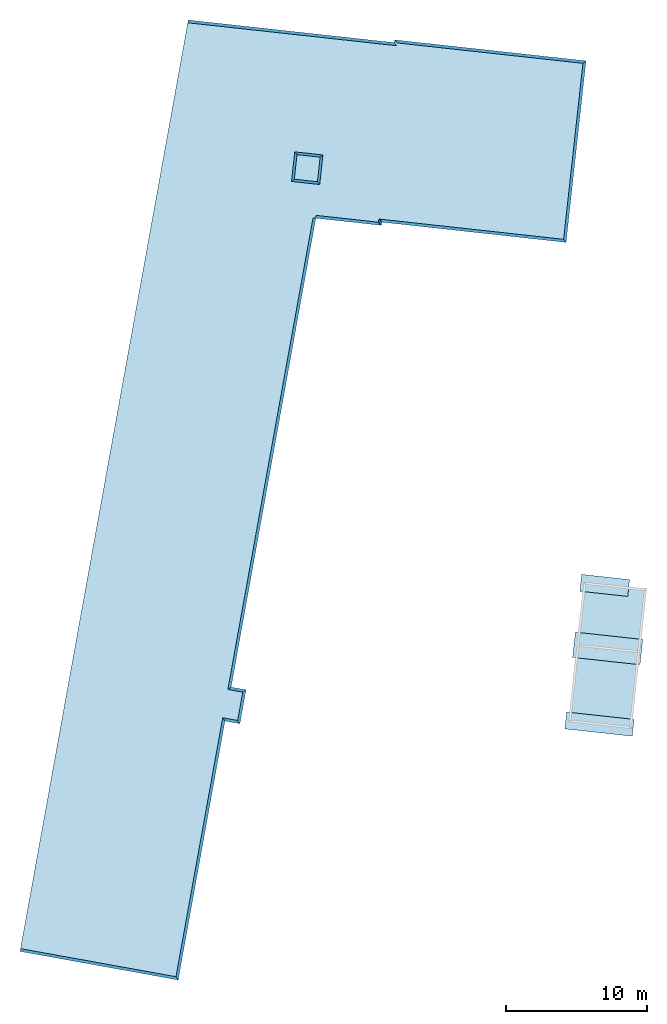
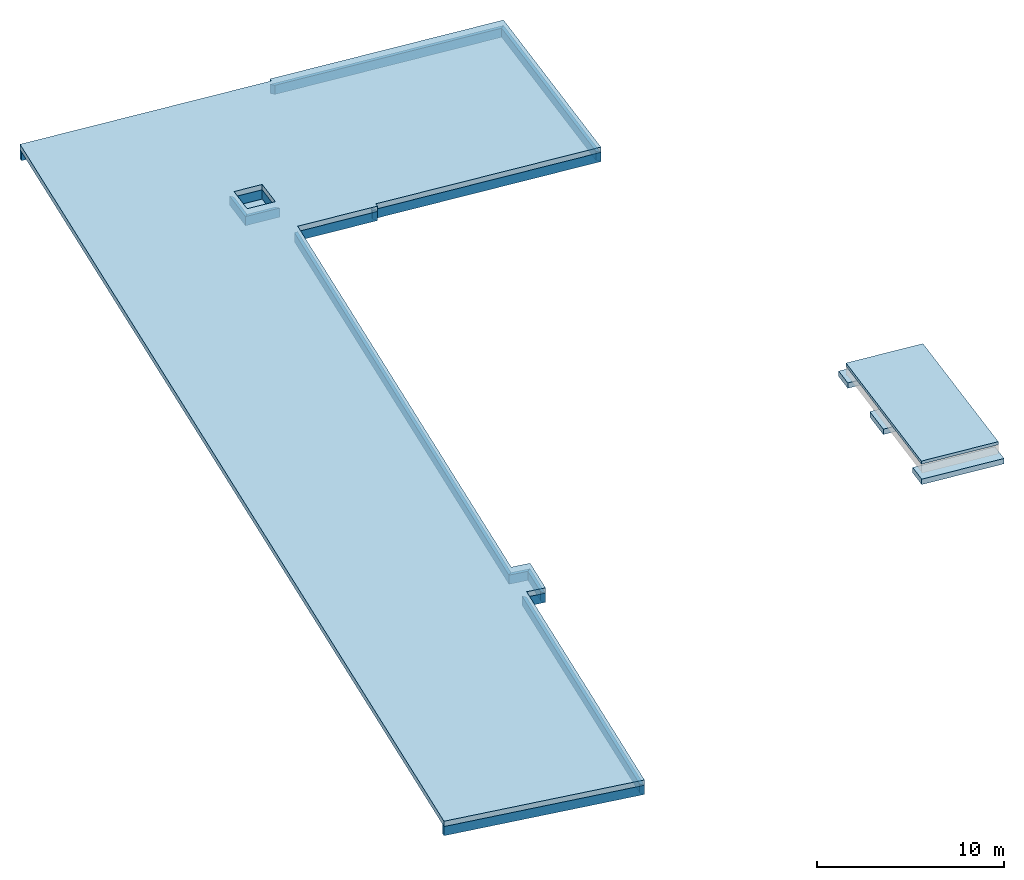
# One storey, part 1 of 2: 16 walls, 6 slabs.
"""IFC2X3 building model written with IfcOpenShell, lengths in metres."""

from ifc_helpers import new_model, entity, si_unit, converted_unit, derived_unit, money_unit, direction, frame, origin_with_axes, place, context, subcontext, project, spatial, polyline, outline, extrude, material, layer, layer_set, layer_usage, type_object, element, save


model = new_model("IFC2X3")

# Units and contexts
model_context = context("Model", 3, precision=1e-05, world=origin_with_axes(), true_north=direction((0.0, 1.0)))
body_context = subcontext(model_context, "Body", "Model", "MODEL_VIEW")
ifc_project = project(units=[si_unit("LENGTHUNIT", "METRE"), si_unit("AREAUNIT", "SQUARE_METRE"), si_unit("VOLUMEUNIT", "CUBIC_METRE"), converted_unit("PLANEANGLEUNIT", "DEGREE", entity("IfcPlaneAngleMeasure", 0.0174532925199), si_unit("PLANEANGLEUNIT", "RADIAN"), dimensions=[0, 0, 0, 0, 0, 0, 0]), money_unit("CHF"), converted_unit("TIMEUNIT", "Year", entity("IfcTimeMeasure", 31556926.0), si_unit("TIMEUNIT", "SECOND"), dimensions=[0, 0, 1, 0, 0, 0, 0]), si_unit("MASSUNIT", "GRAM", prefix="KILO"), si_unit("THERMODYNAMICTEMPERATUREUNIT", "DEGREE_CELSIUS"), si_unit("LUMINOUSINTENSITYUNIT", "LUMEN"), si_unit("ENERGYUNIT", "JOULE", prefix="MEGA"), derived_unit("THERMALCONDUCTANCEUNIT", [(si_unit("POWERUNIT", "WATT"), 1), (si_unit("LENGTHUNIT", "METRE"), -1), (si_unit("THERMODYNAMICTEMPERATUREUNIT", "KELVIN"), -1)]), derived_unit("SPECIFICHEATCAPACITYUNIT", [(si_unit("ENERGYUNIT", "JOULE"), 1), (si_unit("MASSUNIT", "GRAM", prefix="KILO"), -1), (si_unit("THERMODYNAMICTEMPERATUREUNIT", "KELVIN"), -1)]), derived_unit("MASSDENSITYUNIT", [(si_unit("MASSUNIT", "GRAM", prefix="KILO"), 1), (si_unit("VOLUMEUNIT", "CUBIC_METRE"), -1)])], contexts=[model_context])

# Site, building, storey
site_placement = place(None, frame((0.0, 0.0, 0.0), z_axis=(0.0, 0.0, 1.0), x_axis=(-0.177771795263, -0.984071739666, 0.0)))
site = spatial("IfcSite", under=ifc_project, at=site_placement, Name="Site", CompositionType="ELEMENT")
building_placement = place(site_placement, origin_with_axes())
building = spatial("IfcBuilding", under=site, at=building_placement, Name="Bâtiment", CompositionType="ELEMENT")
storey_placement = place(building_placement, frame((0.0, 0.0, -1.1), z_axis=(0.0, 0.0, 1.0), x_axis=(1.0, 0.0, 0.0)))
storey = spatial("IfcBuildingStorey", under=building, at=storey_placement, Name="Fondations", CompositionType="ELEMENT", Elevation=-1.1)

# Slabs
ifc_material_1 = material(Name="_BA banché RAL9007")
ifc_layer_1 = layer(ifc_material_1, 0.35, ventilated="UNKNOWN")
ifc_layer_set_1 = layer_set([ifc_layer_1], Name="_BA banché RAL9007 0.35")
ifc_layer_usage_1 = layer_usage(ifc_layer_set_1, "AXIS3", "NEGATIVE", 0.35)
slab_type_1 = type_object("IfcSlabType", Name="_BA banché RAL9007 350", PredefinedType="FLOOR")
slab_1_placement = place(storey_placement, frame((105.640690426, -148.419552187, 0.0), z_axis=(0.0, 0.0, 1.0), x_axis=(1.0, 0.0, 0.0)))
element("IfcSlab", 1, at=slab_1_placement, inside=storey, type_object=slab_type_1, material=ifc_layer_usage_1, Name="Radier-ascens", PredefinedType="FLOOR", context=body_context, shape_type="SweptSolid", body=[
    extrude(outline(polyline([(0.0, 0.0), (0.139218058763, -2.00517289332), (2.24415079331, -1.85902856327), (2.10493278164, 0.14614433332), (0.0, 0.0)])), frame((0.0, 0.0, -0.35), z_axis=(0.0, 0.0, 1.0), x_axis=(1.0, 0.0, 0.0)), (0.0, 0.0, 1.0), 0.35),
])
ifc_layer_usage_2 = layer_usage(ifc_layer_set_1, "AXIS3", "NEGATIVE", 0.35)
slab_2_placement = place(storey_placement, frame((108.676892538, -130.351310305, 0.95), z_axis=(0.0, 0.0, 1.0), x_axis=(1.0, 0.0, 0.0)))
element("IfcSlab", 2, at=slab_2_placement, inside=storey, type_object=slab_type_1, material=ifc_layer_usage_2, Name="Radier-general", PredefinedType="FLOOR", context=body_context, shape_type="SweptSolid", body=[
    extrude(outline(polyline([(0.0, 0.0), (-12.918915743, -0.896970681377), (-11.9728035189, -14.5236640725), (-11.7732826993, -14.5098278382), (-10.7557070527, -29.1657967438), (56.3529485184, -29.1657967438), (56.3529485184, -17.7658397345), (37.6951948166, -17.7658400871), (37.6951948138, -16.6912340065), (35.2551948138, -16.6912340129), (35.2551948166, -17.7658404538), (1.46345690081, -17.7658410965), (1.14033845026, -13.1120210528), (0.911481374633, -13.1279107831), (0.0, 0.0)]), holes=[polyline([(-2.72988362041, -19.881379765), (-2.84416710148, -18.2353423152), (-1.09836976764, -18.1141325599), (-0.984086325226, -19.7601700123), (-2.72988362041, -19.881379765)])]), frame((0.0, 0.0, -0.35), z_axis=(0.0, 0.0, 1.0), x_axis=(1.0, 0.0, 0.0)), (0.0, 0.0, 1.0), 0.35),
])
ifc_material_2 = material(Name="_BA banché")
ifc_layer_2 = layer(ifc_material_2, 0.35, ventilated="UNKNOWN")
ifc_layer_set_2 = layer_set([ifc_layer_2], Name="_BA banché 0.35")
ifc_layer_usage_3 = layer_usage(ifc_layer_set_2, "AXIS3", "NEGATIVE", 0.35)
slab_type_2 = type_object("IfcSlabType", Name="_BA banché 350", PredefinedType="FLOOR")
slab_3_placement = place(storey_placement, frame((137.211990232, -119.867738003, 0.2), z_axis=(0.0, 0.0, 1.0), x_axis=(1.0, 0.0, 0.0)))
element("IfcSlab", 3, at=slab_3_placement, inside=storey, type_object=slab_type_2, material=ifc_layer_usage_3, Name="Semelle_BlocSanit", PredefinedType="FLOOR", context=body_context, shape_type="SweptSolid", body=[
    extrude(outline(polyline([(0.0, 0.0), (-1.79557843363, -0.126087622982), (-1.45864433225, -4.92427155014), (0.336934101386, -4.79818392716), (0.0, 0.0)])), frame((0.0, 0.0, -0.35), z_axis=(0.0, 0.0, 1.0), x_axis=(1.0, 0.0, 0.0)), (0.0, 0.0, 1.0), 0.35),
])
ifc_layer_usage_4 = layer_usage(ifc_layer_set_2, "AXIS3", "NEGATIVE", 0.35)
slab_4_placement = place(storey_placement, frame((132.601302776, -121.589938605, 0.2), z_axis=(0.0, 0.0, 1.0), x_axis=(1.0, 0.0, 0.0)))
element("IfcSlab", 4, at=slab_4_placement, inside=storey, type_object=slab_type_2, material=ifc_layer_usage_4, Name="Semelle_BlocSanit", PredefinedType="FLOOR", context=body_context, shape_type="SweptSolid", body=[
    extrude(outline(polyline([(0.0, 0.0), (-1.19705228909, -0.0840584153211), (-0.957835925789, -3.49067147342), (0.2392163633, -3.4066130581), (0.0, 0.0)])), frame((0.0, 0.0, -0.35), z_axis=(0.0, 0.0, 1.0), x_axis=(1.0, 0.0, 0.0)), (0.0, 0.0, 1.0), 0.35),
])
ifc_layer_usage_5 = layer_usage(ifc_layer_set_2, "AXIS3", "NEGATIVE", 0.35)
slab_5_placement = place(storey_placement, frame((142.299462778, -119.51048953, 0.2), z_axis=(0.0, 0.0, 1.0), x_axis=(1.0, 0.0, 0.0)))
element("IfcSlab", 5, at=slab_5_placement, inside=storey, type_object=slab_type_2, material=ifc_layer_usage_5, Name="Semelle_BlocSanit", PredefinedType="FLOOR", context=body_context, shape_type="SweptSolid", body=[
    extrude(outline(polyline([(0.0, 0.0), (-1.19705228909, -0.0840584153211), (-0.860118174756, -4.88224252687), (0.336934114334, -4.79818411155), (0.0, 0.0)])), frame((0.0, 0.0, -0.35), z_axis=(0.0, 0.0, 1.0), x_axis=(1.0, 0.0, 0.0)), (0.0, 0.0, 1.0), 0.35),
])
ifc_layer_3 = layer(ifc_material_2, 0.2, ventilated="UNKNOWN")
ifc_layer_set_3 = layer_set([ifc_layer_3], Name="_BA banché 0.2")
ifc_layer_usage_6 = layer_usage(ifc_layer_set_3, "AXIS3", "NEGATIVE", 0.2)
slab_type_3 = type_object("IfcSlabType", Name="_BA banché 200", PredefinedType="FLOOR")
slab_6_placement = place(storey_placement, frame((132.138204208, -124.845376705, 1.0), z_axis=(0.0, 0.0, 1.0), x_axis=(1.0, 0.0, 0.0)))
element("IfcSlab", 6, at=slab_6_placement, inside=storey, type_object=slab_type_3, material=ifc_layer_usage_6, Name="Dalle_BlocSanit", PredefinedType="FLOOR", context=body_context, shape_type="SweptSolid", body=[
    extrude(outline(polyline([(0.0, 0.0), (9.97543571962, 0.700487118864), (9.66021651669, 5.18943318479), (-0.315219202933, 4.48894606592), (0.0, 0.0)])), frame((0.0, 0.0, -0.2), z_axis=(0.0, 0.0, 1.0), x_axis=(1.0, 0.0, 0.0)), (0.0, 0.0, 1.0), 0.2),
])

# Walls
ifc_layer_4 = layer(ifc_material_1, 0.2, ventilated="UNKNOWN")
ifc_layer_set_4 = layer_set([ifc_layer_4], Name="_BA banché RAL9007 0.2")
ifc_layer_usage_7 = layer_usage(ifc_layer_set_4, "AXIS2", "POSITIVE", 0.0)
wall_type_1 = type_object("IfcWallType", Name="_BA banché RAL9007 200", PredefinedType="NOTDEFINED")
wall_1_placement = place(storey_placement, frame((109.588373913, -143.479221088, 0.0), z_axis=(0.0, 0.0, 1.0), x_axis=(-0.0692640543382, 0.997598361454, 0.0)))
element("IfcWallStandardCase", 7, at=wall_1_placement, inside=storey, type_object=wall_type_1, material=ifc_layer_usage_7, Name="beche-hors-gel", context=body_context, shape_type="SweptSolid", body=[
    extrude(outline(polyline([(-2.66652477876e-10, 0.0), (13.1595151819, 0.0), (12.959515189, 0.2), (-0.200000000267, 0.2), (-2.66652477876e-10, 0.0)])), origin_with_axes(), (0.0, 0.0, 1.0), 0.6),
])
ifc_layer_usage_8 = layer_usage(ifc_layer_set_4, "AXIS2", "POSITIVE", 0.0)
wall_2_placement = place(storey_placement, frame((95.7579767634, -131.248280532, 0.0), z_axis=(0.0, 0.0, 1.0), x_axis=(0.0692640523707, -0.997598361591, 0.0)))
element("IfcWallStandardCase", 8, at=wall_2_placement, inside=storey, type_object=wall_type_1, material=ifc_layer_usage_8, Name="beche-hors-gel", context=body_context, shape_type="SweptSolid", body=[
    extrude(outline(polyline([(2.93596258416e-10, 0.0), (13.6594990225, 0.0), (13.4595156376, 0.2), (0.200000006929, 0.2), (2.93596258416e-10, 0.0)])), origin_with_axes(), (0.0, 0.0, 1.0), 0.6),
])
ifc_layer_usage_9 = layer_usage(ifc_layer_set_4, "AXIS2", "POSITIVE", 0.0)
wall_3_placement = place(storey_placement, frame((146.372087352, -147.042544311, 0.0), z_axis=(0.0, 0.0, 1.0), x_axis=(-1.0, -2.93129163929e-09, 0.0)))
element("IfcWallStandardCase", 9, at=wall_3_placement, inside=storey, type_object=wall_type_1, material=ifc_layer_usage_9, Name="beche-hors-gel", context=body_context, shape_type="SweptSolid", body=[
    extrude(outline(polyline([(-1.80534698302e-10, 0.0), (2.44, 0.0), (2.24000000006, 0.2), (0.199999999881, 0.2), (-1.80534698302e-10, 0.0)])), origin_with_axes(), (0.0, 0.0, 1.0), 0.6),
])
ifc_layer_usage_10 = layer_usage(ifc_layer_set_4, "AXIS2", "POSITIVE", 0.0)
wall_4_placement = place(storey_placement, frame((110.140351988, -148.117188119, 0.0), z_axis=(0.0, 0.0, 1.0), x_axis=(-0.0692640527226, 0.997598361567, 0.0)))
element("IfcWallStandardCase", 10, at=wall_4_placement, inside=storey, type_object=wall_type_1, material=ifc_layer_usage_10, Name="beche-hors-gel", context=body_context, shape_type="SweptSolid", body=[
    extrude(outline(polyline([(0.0, 0.0), (4.66506054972, 0.0), (4.4650605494, 0.2), (0.0, 0.2), (0.0, 0.0)])), origin_with_axes(), (0.0, 0.0, 1.0), 0.6),
])
ifc_layer_usage_11 = layer_usage(ifc_layer_set_4, "AXIS2", "POSITIVE", 0.0)
wall_5_placement = place(storey_placement, frame((109.817230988, -143.463331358, 0.0), z_axis=(0.0, 0.0, 1.0), x_axis=(-0.997598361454, -0.0692640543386, 0.0)))
element("IfcWallStandardCase", 11, at=wall_5_placement, inside=storey, type_object=wall_type_1, material=ifc_layer_usage_11, Name="beche-hors-gel", context=body_context, shape_type="SweptSolid", body=[
    extrude(outline(polyline([(-1.30569333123e-10, 0.0), (0.229408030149, 0.0), (0.429408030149, 0.2), (0.200000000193, 0.2), (-1.30569333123e-10, 0.0)])), origin_with_axes(), (0.0, 0.0, 1.0), 0.6),
])
ifc_layer_usage_12 = layer_usage(ifc_layer_set_4, "AXIS2", "POSITIVE", 0.0)
wall_6_placement = place(storey_placement, frame((143.932087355, -148.117150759, 0.0), z_axis=(0.0, 0.0, 1.0), x_axis=(-1.0, -1.90173511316e-08, 0.0)))
element("IfcWallStandardCase", 12, at=wall_6_placement, inside=storey, type_object=wall_type_1, material=ifc_layer_usage_12, Name="beche-hors-gel", context=body_context, shape_type="SweptSolid", body=[
    extrude(outline(polyline([(1.80449433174e-10, 0.0), (33.7917379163, 0.0), (33.7778517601, 0.2), (-0.199999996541, 0.2), (1.80449433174e-10, 0.0)])), origin_with_axes(), (0.0, 0.0, 1.0), 0.6),
])
ifc_layer_usage_13 = layer_usage(ifc_layer_set_4, "AXIS2", "POSITIVE", 0.0)
wall_7_placement = place(storey_placement, frame((143.932087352, -147.042544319, 0.0), z_axis=(0.0, 0.0, 1.0), x_axis=(2.62376879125e-09, -1.0, 0.0)))
element("IfcWallStandardCase", 13, at=wall_7_placement, inside=storey, type_object=wall_type_1, material=ifc_layer_usage_13, Name="beche-hors-gel", context=body_context, shape_type="SweptSolid", body=[
    extrude(outline(polyline([(-8.47649062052e-10, 0.0), (1.07460644, 0.0), (1.27460643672, 0.2), (0.199999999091, 0.2), (-8.47649062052e-10, 0.0)])), origin_with_axes(), (0.0, 0.0, 1.0), 0.6),
])
ifc_layer_usage_14 = layer_usage(ifc_layer_set_4, "AXIS2", "POSITIVE", 0.0)
wall_8_placement = place(storey_placement, frame((96.9036098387, -144.861138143, 0.0), z_axis=(0.0, 0.0, 1.0), x_axis=(0.0692640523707, -0.997598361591, 0.0)))
element("IfcWallStandardCase", 14, at=wall_8_placement, inside=storey, type_object=wall_type_1, material=ifc_layer_usage_14, Name="beche-hors-gel", context=body_context, shape_type="SweptSolid", body=[
    extrude(outline(polyline([(-3.21307425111e-10, 0.0), (14.6912519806, 0.0), (14.6912519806, 0.2), (-0.199983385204, 0.2), (-3.21307425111e-10, 0.0)])), origin_with_axes(), (0.0, 0.0, 1.0), 0.6),
])
ifc_layer_usage_15 = layer_usage(ifc_layer_set_4, "AXIS2", "POSITIVE", 0.0)
wall_9_placement = place(storey_placement, frame((165.029841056, -159.517107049, 0.0), z_axis=(0.0, 0.0, 1.0), x_axis=(0.0, 1.0, 0.0)))
element("IfcWallStandardCase", 15, at=wall_9_placement, inside=storey, type_object=wall_type_1, material=ifc_layer_usage_15, Name="beche-hors-gel", context=body_context, shape_type="SweptSolid", body=[
    extrude(outline(polyline([(0.0, 0.0), (11.399956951, 0.0), (11.1999569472, 0.2), (0.0, 0.2), (0.0, 0.0)])), origin_with_axes(), (0.0, 0.0, 1.0), 0.6),
])
ifc_layer_usage_16 = layer_usage(ifc_layer_set_4, "AXIS2", "POSITIVE", 0.0)
wall_10_placement = place(storey_placement, frame((165.029841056, -148.117150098, 0.0), z_axis=(0.0, 0.0, 1.0), x_axis=(-1.0, -1.88991751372e-08, 0.0)))
element("IfcWallStandardCase", 16, at=wall_10_placement, inside=storey, type_object=wall_type_1, material=ifc_layer_usage_16, Name="beche-hors-gel", context=body_context, shape_type="SweptSolid", body=[
    extrude(outline(polyline([(0.0, 0.0), (18.657753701, 0.0), (18.8577537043, 0.2), (0.20000000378, 0.2), (0.0, 0.0)])), origin_with_axes(), (0.0, 0.0, 1.0), 0.6),
])
ifc_layer_usage_17 = layer_usage(ifc_layer_set_4, "AXIS2", "POSITIVE", 0.0)
wall_11_placement = place(storey_placement, frame((146.372087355, -148.117150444, 0.0), z_axis=(0.0, 0.0, 1.0), x_axis=(-2.623716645e-09, 1.0, 0.0)))
element("IfcWallStandardCase", 17, at=wall_11_placement, inside=storey, type_object=wall_type_1, material=ifc_layer_usage_17, Name="beche-hors-gel", context=body_context, shape_type="SweptSolid", body=[
    extrude(outline(polyline([(-6.61620447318e-09, 0.0), (1.074606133, 0.0), (0.874606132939, 0.2), (-0.200000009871, 0.2), (-6.61620447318e-09, 0.0)])), origin_with_axes(), (0.0, 0.0, 1.0), 0.6),
])
ifc_layer_usage_18 = layer_usage(ifc_layer_set_4, "AXIS2", "POSITIVE", 0.0)
wall_12_placement = place(storey_placement, frame((108.676892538, -130.351310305, 0.0), z_axis=(0.0, 0.0, 1.0), x_axis=(-0.997598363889, -0.0692640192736, 0.0)))
element("IfcWallStandardCase", 18, at=wall_12_placement, inside=storey, type_object=wall_type_1, material=ifc_layer_usage_18, Name="beche-hors-gel", context=body_context, shape_type="SweptSolid", body=[
    extrude(outline(polyline([(-3.75081299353e-10, 0.0), (12.9500170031, 0.0), (12.7500169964, 0.2), (0.199999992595, 0.2), (-3.75081299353e-10, 0.0)])), origin_with_axes(), (0.0, 0.0, 1.0), 0.6),
])
ifc_layer_5 = layer(ifc_material_1, 0.18, ventilated="UNKNOWN")
ifc_layer_set_5 = layer_set([ifc_layer_5], Name="_BA banché RAL9007 0.18")
ifc_layer_usage_19 = layer_usage(ifc_layer_set_5, "AXIS2", "POSITIVE", -0.18)
wall_type_2 = type_object("IfcWallType", Name="_BA banché RAL9007 180", PredefinedType="NOTDEFINED")
wall_13_placement = place(storey_placement, frame((107.692806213, -150.111480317, 0.0), z_axis=(0.0, 0.0, 1.0), x_axis=(-0.0692626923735, 0.997598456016, 0.0)))
element("IfcWallStandardCase", 19, at=wall_13_placement, inside=storey, type_object=wall_type_2, material=ifc_layer_usage_19, Name="refend-ascens", context=body_context, shape_type="SweptSolid", body=[
    extrude(outline(polyline([(-0.17999999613, -0.18), (1.83000000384, -0.18), (1.64999999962, 0.0), (-3.57516682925e-10, 0.0), (-0.17999999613, -0.18)])), origin_with_axes(), (0.0, 0.0, 1.0), 0.6),
])
ifc_layer_usage_20 = layer_usage(ifc_layer_set_5, "AXIS2", "POSITIVE", -0.18)
wall_14_placement = place(storey_placement, frame((107.57852277, -148.465442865, 0.0), z_axis=(0.0, 0.0, 1.0), x_axis=(-0.997598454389, -0.0692627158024, 0.0)))
element("IfcWallStandardCase", 20, at=wall_14_placement, inside=storey, type_object=wall_type_2, material=ifc_layer_usage_20, Name="refend-ascens", context=body_context, shape_type="SweptSolid", body=[
    extrude(outline(polyline([(-0.180000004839, -0.18), (1.93000003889, -0.18), (1.75000003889, 0.0), (-6.11862560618e-10, 0.0), (-0.180000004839, -0.18)])), origin_with_axes(), (0.0, 0.0, 1.0), 0.6),
])
ifc_layer_usage_21 = layer_usage(ifc_layer_set_5, "AXIS2", "POSITIVE", -0.18)
wall_15_placement = place(storey_placement, frame((105.832725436, -148.58665262, 0.0), z_axis=(0.0, 0.0, 1.0), x_axis=(0.0692627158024, -0.997598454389, 0.0)))
element("IfcWallStandardCase", 21, at=wall_15_placement, inside=storey, type_object=wall_type_2, material=ifc_layer_usage_21, Name="refend-ascens", context=body_context, shape_type="SweptSolid", body=[
    extrude(outline(polyline([(-0.179999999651, -0.18), (1.83000000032, -0.18), (1.65000000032, 0.0), (3.48592266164e-10, 0.0), (-0.179999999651, -0.18)])), origin_with_axes(), (0.0, 0.0, 1.0), 0.6),
])
ifc_layer_usage_22 = layer_usage(ifc_layer_set_5, "AXIS2", "POSITIVE", -0.18)
wall_16_placement = place(storey_placement, frame((105.947008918, -150.23269007, 0.0), z_axis=(0.0, 0.0, 1.0), x_axis=(0.997598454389, 0.0692627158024, 0.0)))
element("IfcWallStandardCase", 22, at=wall_16_placement, inside=storey, type_object=wall_type_2, material=ifc_layer_usage_22, Name="refend-ascens", context=body_context, shape_type="SweptSolid", body=[
    extrude(outline(polyline([(-0.180000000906, -0.18), (1.92999999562, -0.18), (1.74999999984, 0.0), (-9.05970409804e-10, 0.0), (-0.180000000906, -0.18)])), origin_with_axes(), (0.0, 0.0, 1.0), 0.6),
])

save(model, "model.ifc")
